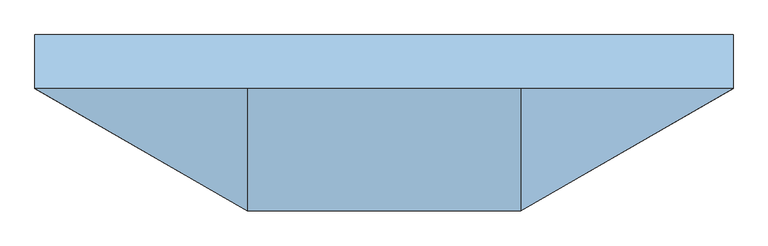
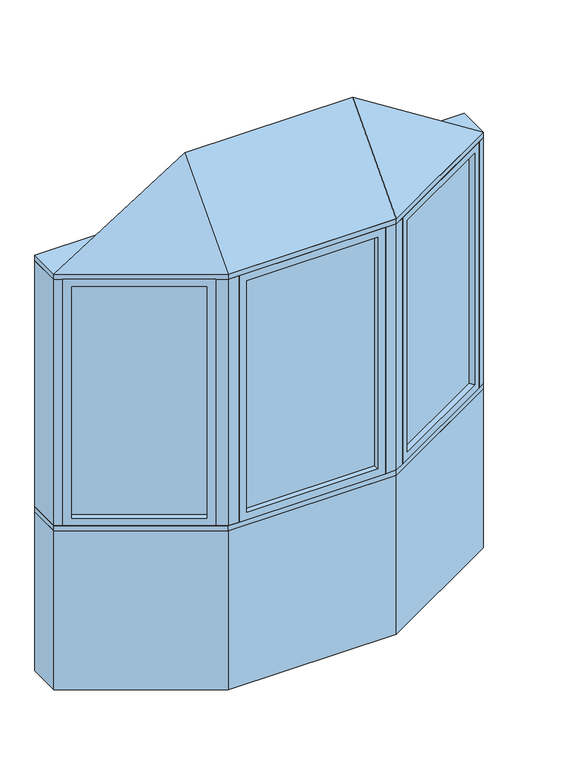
"""IFC4 building model written with IfcOpenShell, lengths in millimetres: window geometry, Pollard_Windows_Tudor Casement Bows and Bays : AML-BAY 30 AFR0512-10-600."""

from ifc_helpers import new_model, si_unit, frame, origin, origin_with_axes, place, context, project, spatial, polyline, outline, extrude, faceted_brep, source, transform, mapped, element, save


def window_36d4527d(model_context):
    return source(origin(), model_context, "Body", "SolidModel", [
        extrude(outline(polyline([(926.612102, -82.0482469), (438.3834764, -363.9271754), (435.8434764, -359.5277664), (924.072102, -77.6488379), (926.612102, -82.0482469)])), frame((0.0, 0.0, 823.1628), z_axis=(0.0, 0.0, 1.0), x_axis=(1.0, 0.0, 0.0)), (0.0, 0.0, 1.0), 1153.6704),
        faceted_brep([(915.6135794, -88.3982469, 835.8628), (928.3135794, -110.3952922, 835.8628), (928.3135794, -110.3952922, 1964.1332), (915.6135794, -88.3982469, 1964.1332), (924.072102, -77.6488379, 823.1628), (926.612102, -82.0482469, 823.1628), (926.612102, -82.0482469, 1976.8332), (924.072102, -77.6488379, 1976.8332), (900.3735794, -62.0017926, 835.8628), (913.0735794, -83.9988379, 835.8628), (913.0735794, -83.9988379, 1964.1332), (900.3735794, -62.0017926, 1964.1332), (959.3734073, -92.4628922, 799.998), (931.4334073, -44.0693926, 799.998), (931.4334073, -44.0693926, 1999.998), (959.3734073, -92.4628922, 1999.998), (462.081999, -379.5742207, 1964.1332), (449.381999, -357.5771754, 1964.1332), (438.3834764, -363.9271754, 1976.8332), (435.8434764, -359.5277664, 1976.8332), (446.841999, -353.1777664, 1964.1332), (434.141999, -331.1807211, 1964.1332), (403.0821711, -349.1131211, 1999.998), (431.0221711, -397.5066207, 1999.998), (462.081999, -379.5742207, 835.8628), (449.381999, -357.5771754, 835.8628), (438.3834764, -363.9271754, 823.1628), (435.8434764, -359.5277664, 823.1628), (446.841999, -353.1777664, 835.8628), (434.141999, -331.1807211, 835.8628), (403.0821711, -349.1131211, 799.998), (431.0221711, -397.5066207, 799.998)], [[[0, 1, 2, 3]], [[4, 5, 6, 7]], [[8, 9, 10, 11]], [[12, 13, 14, 15]], [[3, 2, 16, 17]], [[7, 6, 18, 19]], [[11, 10, 20, 21]], [[15, 14, 22, 23]], [[17, 16, 24, 25]], [[19, 18, 26, 27]], [[21, 20, 28, 29]], [[23, 22, 30, 31]], [[25, 24, 1, 0]], [[5, 26, 18, 6], [3, 17, 25, 0]], [[27, 26, 5, 4]], [[7, 19, 27, 4], [9, 28, 20, 10]], [[29, 28, 9, 8]], [[13, 30, 22, 14], [11, 21, 29, 8]], [[31, 30, 13, 12]], [[15, 23, 31, 12], [1, 24, 16, 2]]]),
        extrude(outline(polyline([(-438.3834764, -363.9271754), (-926.612102, -82.0482469), (-924.072102, -77.6488379), (-435.8434764, -359.5277664), (-438.3834764, -363.9271754)])), frame((0.0, 0.0, 823.1628), z_axis=(0.0, 0.0, 1.0), x_axis=(1.0, 0.0, 0.0)), (0.0, 0.0, 1.0), 1153.6704),
        faceted_brep([(-446.841999, -353.1777664, 1964.1332), (-434.141999, -331.1807211, 1964.1332), (-434.141999, -331.1807211, 835.8628), (-446.841999, -353.1777664, 835.8628), (-438.3834764, -363.9271754, 1976.8332), (-435.8434764, -359.5277664, 1976.8332), (-435.8434764, -359.5277664, 823.1628), (-438.3834764, -363.9271754, 823.1628), (-462.081999, -379.5742207, 1964.1332), (-449.381999, -357.5771754, 1964.1332), (-449.381999, -357.5771754, 835.8628), (-462.081999, -379.5742207, 835.8628), (-403.0821711, -349.1131211, 1999.998), (-431.0221711, -397.5066207, 1999.998), (-431.0221711, -397.5066207, 799.998), (-403.0821711, -349.1131211, 799.998), (-900.3735794, -62.0017926, 835.8628), (-913.0735794, -83.9988379, 835.8628), (-924.072102, -77.6488379, 823.1628), (-926.612102, -82.0482469, 823.1628), (-915.6135794, -88.3982469, 835.8628), (-928.3135794, -110.3952922, 835.8628), (-959.3734073, -92.4628922, 799.998), (-931.4334073, -44.0693926, 799.998), (-900.3735794, -62.0017926, 1964.1332), (-913.0735794, -83.9988379, 1964.1332), (-924.072102, -77.6488379, 1976.8332), (-926.612102, -82.0482469, 1976.8332), (-915.6135794, -88.3982469, 1964.1332), (-928.3135794, -110.3952922, 1964.1332), (-959.3734073, -92.4628922, 1999.998), (-931.4334073, -44.0693926, 1999.998)], [[[0, 1, 2, 3]], [[4, 5, 6, 7]], [[8, 9, 10, 11]], [[12, 13, 14, 15]], [[3, 2, 16, 17]], [[7, 6, 18, 19]], [[11, 10, 20, 21]], [[15, 14, 22, 23]], [[17, 16, 24, 25]], [[19, 18, 26, 27]], [[21, 20, 28, 29]], [[23, 22, 30, 31]], [[15, 23, 31, 12], [1, 24, 16, 2]], [[25, 24, 1, 0]], [[5, 26, 18, 6], [3, 17, 25, 0]], [[27, 26, 5, 4]], [[7, 19, 27, 4], [9, 28, 20, 10]], [[29, 28, 9, 8]], [[13, 30, 22, 14], [11, 21, 29, 8]], [[31, 30, 13, 12]]]),
        extrude(outline(polyline([(314.5561009, -397.1066207), (-314.5561009, -397.1066207), (-314.5561009, -392.0266207), (314.5561009, -392.0266207), (314.5561009, -397.1066207)])), frame((0.0, 0.0, 823.1628), z_axis=(0.0, 0.0, 1.0), x_axis=(1.0, 0.0, 0.0)), (0.0, 0.0, 1.0), 1153.6704),
        faceted_brep([(301.8561009, -397.1066207, 835.8628), (301.8561009, -422.5066207, 835.8628), (301.8561009, -422.5066207, 1964.1332), (301.8561009, -397.1066207, 1964.1332), (314.5561009, -392.0266207, 823.1628), (314.5561009, -397.1066207, 823.1628), (314.5561009, -397.1066207, 1976.8332), (314.5561009, -392.0266207, 1976.8332), (301.8561009, -366.6266207, 835.8628), (301.8561009, -392.0266207, 835.8628), (301.8561009, -392.0266207, 1964.1332), (301.8561009, -366.6266207, 1964.1332), (337.7209009, -422.5066207, 799.998), (337.7209009, -366.6266207, 799.998), (337.7209009, -366.6266207, 1999.998), (337.7209009, -422.5066207, 1999.998), (-301.8561009, -422.5066207, 1964.1332), (-301.8561009, -397.1066207, 1964.1332), (-314.5561009, -397.1066207, 1976.8332), (-314.5561009, -392.0266207, 1976.8332), (-301.8561009, -392.0266207, 1964.1332), (-301.8561009, -366.6266207, 1964.1332), (-337.7209009, -366.6266207, 1999.998), (-337.7209009, -422.5066207, 1999.998), (-301.8561009, -422.5066207, 835.8628), (-301.8561009, -397.1066207, 835.8628), (-314.5561009, -397.1066207, 823.1628), (-314.5561009, -392.0266207, 823.1628), (-301.8561009, -392.0266207, 835.8628), (-301.8561009, -366.6266207, 835.8628), (-337.7209009, -366.6266207, 799.998), (-337.7209009, -422.5066207, 799.998)], [[[0, 1, 2, 3]], [[4, 5, 6, 7]], [[8, 9, 10, 11]], [[12, 13, 14, 15]], [[3, 2, 16, 17]], [[7, 6, 18, 19]], [[11, 10, 20, 21]], [[15, 14, 22, 23]], [[17, 16, 24, 25]], [[19, 18, 26, 27]], [[21, 20, 28, 29]], [[23, 22, 30, 31]], [[15, 23, 31, 12], [1, 24, 16, 2]], [[25, 24, 1, 0]], [[5, 26, 18, 6], [3, 17, 25, 0]], [[27, 26, 5, 4]], [[7, 19, 27, 4], [9, 28, 20, 10]], [[29, 28, 9, 8]], [[13, 30, 22, 14], [11, 21, 29, 8]], [[31, 30, 13, 12]]]),
        faceted_brep([(990.0, -74.7806207, 2025.398), (387.7209009, -422.5066207, 2025.398), (-387.7209009, -422.5066207, 2025.398), (-990.0, -74.7806207, 2025.398), (-387.7209009, -74.7806207, 2406.398), (387.7209009, -74.7806207, 2406.398)], [[[0, 1, 2, 3]], [[3, 2, 4]], [[2, 1, 5, 4]], [[1, 0, 5]], [[0, 3, 4, 5]]]),
        extrude(outline(polyline([(-990.0, 77.6193793), (990.0, 77.6193793), (990.0, -74.7806207), (387.7209009, -422.5066207), (-387.7209009, -422.5066207), (-990.0, -74.7806207), (-990.0, 77.6193793)])), frame((0.0, 0.0, 1999.998), z_axis=(0.0, 0.0, 1.0), x_axis=(1.0, 0.0, 0.0)), (0.0, 0.0, 1.0), 25.4),
        extrude(outline(polyline([(-990.0, -74.7806207), (-990.0, 77.6193793), (-949.1645431, 77.6193793), (-949.1645431, -74.7806207), (-959.3734073, -92.4628922), (-990.0, -74.7806207)])), frame((0.0, 0.0, 799.998), z_axis=(0.0, 0.0, 1.0), x_axis=(1.0, 0.0, 0.0)), (0.0, 0.0, 1.0), 1200.0),
        extrude(outline(polyline([(990.0, 77.6193793), (990.0, -74.7806207), (959.3734073, -92.4628922), (949.1645431, -74.7806207), (949.1645431, 77.6193793), (990.0, 77.6193793)])), frame((0.0, 0.0, 799.998), z_axis=(0.0, 0.0, 1.0), x_axis=(1.0, 0.0, 0.0)), (0.0, 0.0, 1.0), 1200.0),
        extrude(outline(polyline([(387.7209009, -422.5066207), (337.7209009, -422.5066207), (337.7209009, -372.5066207), (374.3234413, -372.5066207), (406.0221711, -354.2053505), (431.0221711, -397.5066207), (387.7209009, -422.5066207)])), frame((0.0, 0.0, 799.998), z_axis=(0.0, 0.0, 1.0), x_axis=(1.0, 0.0, 0.0)), (0.0, 0.0, 1.0), 1200.0),
        extrude(outline(polyline([(-387.7209009, -422.5066207), (-431.0221711, -397.5066207), (-406.0221711, -354.2053505), (-374.3234413, -372.5066207), (-337.7209009, -372.5066207), (-337.7209009, -422.5066207), (-387.7209009, -422.5066207)])), frame((0.0, 0.0, 799.998), z_axis=(0.0, 0.0, 1.0), x_axis=(1.0, 0.0, 0.0)), (0.0, 0.0, 1.0), 1200.0),
        extrude(outline(polyline([(-387.7209009, -422.5066207), (-990.0, -74.7806207), (-990.0, 77.6193793), (-949.1645431, 77.6193793), (-346.885444, -270.1066207), (346.885444, -270.1066207), (949.1645431, 77.6193793), (990.0, 77.6193793), (990.0, -74.7806207), (387.7209009, -422.5066207), (-387.7209009, -422.5066207)])), frame((0.0, 0.0, 774.598), z_axis=(0.0, 0.0, 1.0), x_axis=(1.0, 0.0, 0.0)), (0.0, 0.0, 1.0), 25.4),
        extrude(outline(polyline([(-990.0, -74.7806207), (-990.0, 77.6193793), (-949.1645431, 77.6193793), (-346.885444, -270.1066207), (346.885444, -270.1066207), (949.1645431, 77.6193793), (990.0, 77.6193793), (990.0, -74.7806207), (387.7209009, -422.5066207), (-387.7209009, -422.5066207), (-990.0, -74.7806207)])), origin_with_axes(), (0.0, 0.0, 1.0), 774.598),
    ])


if __name__ == "__main__":
    model = new_model("IFC4")
    model_context = context("Model", 3, world=origin())
    ifc_project = project(units=[si_unit("LENGTHUNIT", "METRE", prefix="MILLI")], contexts=[model_context])
    site = spatial("IfcSite", under=ifc_project)
    building = spatial("IfcBuilding", under=site)
    placement = place(None, origin())
    window_shape = window_36d4527d(model_context)
    element("IfcWindow", 1, ObjectType="Pollard_Windows_Tudor Casement Bows and Bays : AML-BAY 30 AFR0512-10-600", at=placement, inside=building, context=model_context, shape_type="MappedRepresentation", body=[
        mapped(window_shape, transform((0.0, 0.0, 0.0), x_axis=(1.0, 0.0, 0.0), y_axis=(0.0, 1.0, 0.0), z_axis=(0.0, 0.0, 1.0))),
    ])
    save(model, "model.ifc")
